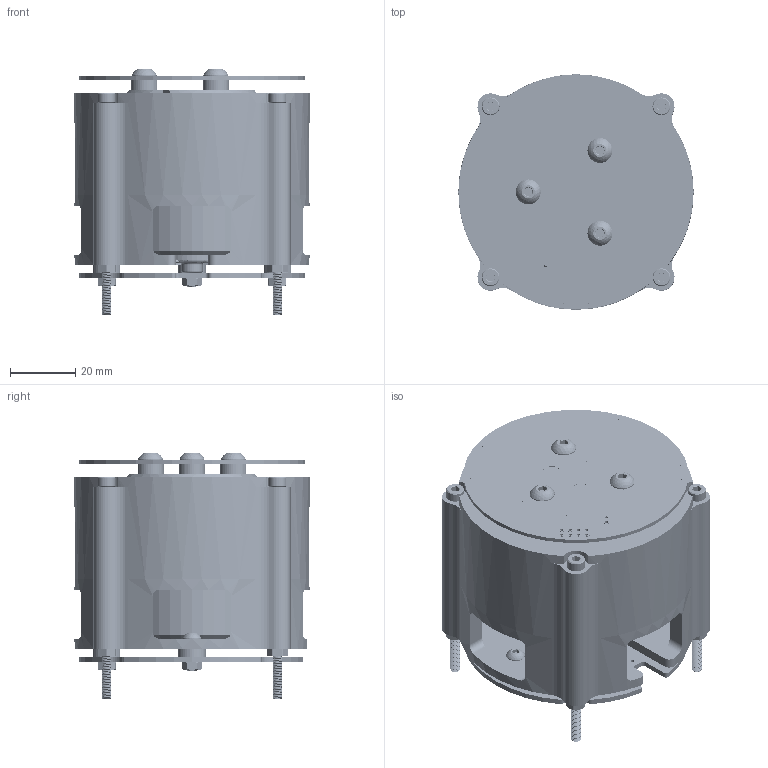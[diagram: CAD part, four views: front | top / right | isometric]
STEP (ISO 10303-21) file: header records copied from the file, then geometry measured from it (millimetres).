
FILE_DESCRIPTION(/* description */ (''),/* implementation_level */ '2;1');
FILE_NAME(/* name */ 'full_motor_module_assembly.step',/* time_stamp */ '2024-10-03T13:02:30-04:00',/* author */ (''),/* organization */ (''),/* preprocessor_version */ 'ST-DEVELOPER v20',/* originating_system */ 'Autodesk Translation Framework v13.20.0.188',/* authorisation */ '');
FILE_SCHEMA (('AUTOMOTIVE_DESIGN { 1 0 10303 214 3 1 1 }'));
Length unit declared in the file: millimetre
Products named in the file (29): urdf_meshes_centering; motor_module; ring_gear; sun_gear; sun_carrier; carrier; back_cap; bearing; motor; planets_first; planets_second; magnet_mount; pcb_standoffs; PCB_driver; dowel_pins_lower; dowel_pins_upper; 90592A090_Steel Hex Nut; top_offsets; hot_plate; 92095A194_Button Head Hex Drive Screw; 90592A085_Steel Hex Nut; 92095A182_Button Head Hex Drive Screw; magnet; 91294A002_Black-Oxide Alloy Steel Hex Drive Flat Head Screw; 92095A183_Button Head Hex Drive Screw; 90592A085_Steel Hex Nut (1); 91294A473_Black-Oxide Alloy Steel Hex Drive Flat Head Screw; 91292A315_18-8 Stainless Steel Socket Head Screw; 90592A085_Steel Hex Nut (2)
Assembly tree (34 placements, depth 3):
  urdf_meshes_centering
    motor_module
      ring_gear
      sun_gear
      sun_carrier
      carrier
      back_cap
      bearing
      motor
      planets_first
      planets_second
      magnet_mount
      pcb_standoffs
      PCB_driver
      dowel_pins_lower
      dowel_pins_upper
      90592A090_Steel Hex Nut
      top_offsets
      hot_plate
      92095A194_Button Head Hex Drive Screw
      90592A085_Steel Hex Nut
      92095A182_Button Head Hex Drive Screw
      magnet
      91294A002_Black-Oxide Alloy Steel Hex Drive Flat Head Screw
      92095A183_Button Head Hex Drive Screw
      90592A085_Steel Hex Nut (1)
      91294A473_Black-Oxide Alloy Steel Hex Drive Flat Head Screw
      91292A315_18-8 Stainless Steel Socket Head Screw  x4
      90592A085_Steel Hex Nut (2)  x4
Bounding box: 72 x 72 x 75.4 mm (x, y, z)
Volume: 147659.1 mm3; surface area: 152827.4 mm2
Topology: 566 solids, 566 shells, 22741 faces, 64189 edges, 42651 vertices
Faces by surface type: plane 18876, cylinder 3395, cone 366, bspline 78, torus 19, sphere 7
Full cylindrical faces by diameter (mm): 0.28 x186, 0.35 x229, 0.85 x6, 0.93 x140, 0.946 x130, 1 x116, 1.016 x104, 1.048 x15, 1.118 x12, 1.48 x28, 1.915 x4, 2 x34, 2.35 x216, 2.43 x10, 2.5 x12, 2.54 x6, 3 x253, 3.091 x69, 3.5 x1, 4 x112, 4.1 x1, 4.5 x3, 5 x16, 5.3 x6, 5.5 x4, 5.7 x4, 6 x2, 6.5 x1, 7.6 x3, 8 x3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
Entity records: 764909 total; most frequent: CARTESIAN_POINT 179416, ORIENTED_EDGE 126218, DIRECTION 111785, EDGE_CURVE 63109, LINE 55867, VECTOR 55867, VERTEX_POINT 41955, AXIS2_PLACEMENT_3D 27959
